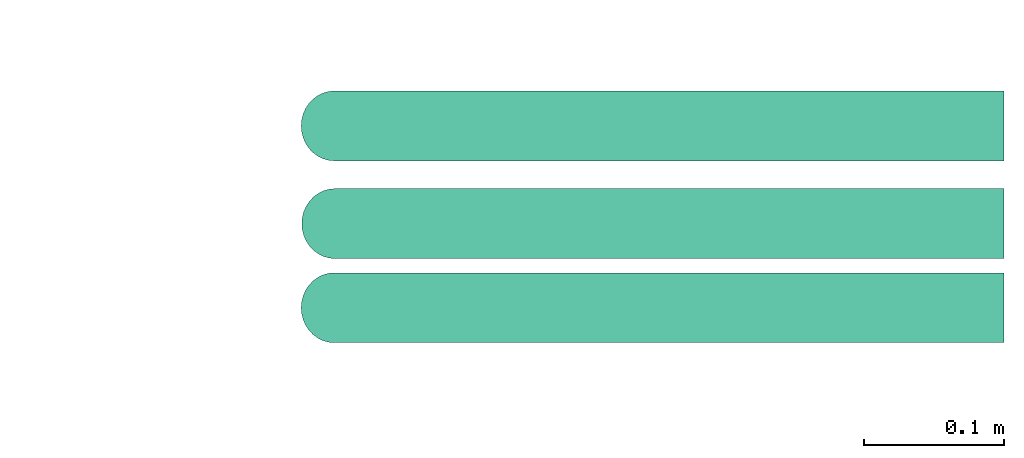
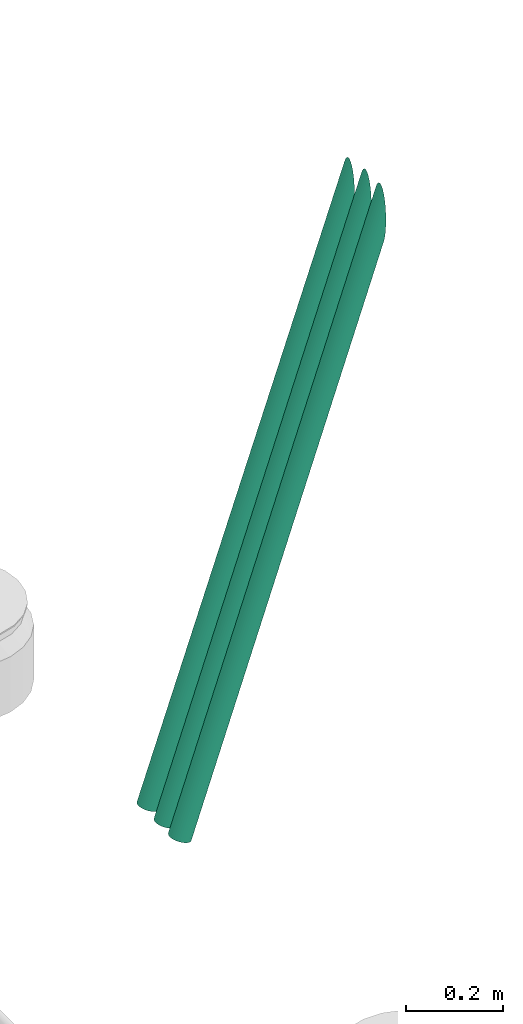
# One storey, part 46 of 51: 3 flow segments.
"""IFC2X3 building model written with IfcOpenShell, lengths in millimetres."""

from ifc_helpers import new_model, entity, si_unit, converted_unit, derived_unit, direction, frame, place, context, subcontext, project, spatial, faceted_brep, type_object, element, save


model = new_model("IFC2X3")

# Units and contexts
model_context = context("Model", 3, precision=0.01, world=frame((0.0, 4.29681676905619e-09, 0.0)), true_north=direction((4.01073788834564e-13, 1.0)))
plan_context = context("Plan", 3, precision=0.01, world=frame((0.0, 4.29681676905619e-09, 0.0)), true_north=direction((4.01073788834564e-13, 1.0)))
body_context = subcontext(model_context, "Body", "Model", "MODEL_VIEW")
ifc_project = project(units=[converted_unit("PLANEANGLEUNIT", "DEGREE", entity("IfcPositiveLengthMeasure", 0.0174532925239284), si_unit("PLANEANGLEUNIT", "RADIAN"), dimensions=[0, 0, 0, 0, 0, 0, 0]), si_unit("AREAUNIT", "SQUARE_METRE"), si_unit("LENGTHUNIT", "METRE", prefix="MILLI"), si_unit("MASSUNIT", "GRAM", prefix="KILO"), si_unit("POWERUNIT", "WATT"), si_unit("PRESSUREUNIT", "PASCAL"), si_unit("FORCEUNIT", "NEWTON", prefix="KILO"), si_unit("ELECTRICVOLTAGEUNIT", "VOLT"), si_unit("ELECTRICCURRENTUNIT", "AMPERE"), si_unit("THERMODYNAMICTEMPERATUREUNIT", "DEGREE_CELSIUS"), si_unit("TIMEUNIT", "SECOND"), si_unit("VOLUMEUNIT", "CUBIC_METRE"), derived_unit("LINEARVELOCITYUNIT", [(si_unit("LENGTHUNIT", "METRE"), 1), (si_unit("TIMEUNIT", "SECOND"), -1)]), derived_unit("VOLUMETRICFLOWRATEUNIT", [(si_unit("VOLUMEUNIT", "CUBIC_METRE"), 1), (si_unit("TIMEUNIT", "SECOND"), -1)]), derived_unit("THERMALTRANSMITTANCEUNIT", [(si_unit("POWERUNIT", "WATT"), 1), (si_unit("THERMODYNAMICTEMPERATUREUNIT", "KELVIN"), -1), (si_unit("AREAUNIT", "SQUARE_METRE"), -1)]), derived_unit("SOUNDPRESSUREUNIT", [(si_unit("PRESSUREUNIT", "PASCAL"), 1)])], contexts=[model_context, plan_context])

# Site, building, storey
site_placement = place(None, frame((0.0, -4.29681676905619e-09, 0.0), z_axis=(0.0, 0.0, 1.0), x_axis=(1.0, 0.0, 0.0)))
site = spatial("IfcSite", under=ifc_project, at=site_placement, Name="ENGM", CompositionType="ELEMENT")
building_placement = place(site_placement, frame((0.0, 4.29681676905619e-09, 0.0), z_axis=(0.0, 0.0, 1.0), x_axis=(1.0, 0.0, 0.0)))
building = spatial("IfcBuilding", under=site, at=building_placement, Name="TI", CompositionType="ELEMENT")
storey_placement = place(building_placement, frame((0.0, 0.0, 210900.0), z_axis=(0.0, 0.0, 1.0), x_axis=(1.0, 0.0, 0.0)))
storey = spatial("IfcBuildingStorey", under=building, at=storey_placement, Name="Nivå F", CompositionType="ELEMENT", Elevation=210900.0)

# Flow segments
cable_carrier_segment_type = type_object("IfcCableCarrierSegmentType", Name="Trekkerør, glatt", PredefinedType="CONDUITSEGMENT")
flow_segment_1_placement = place(storey_placement, frame((611951.29834, 698065.0002, 0.0), z_axis=(-0.945784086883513, 0.0, 0.324796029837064), x_axis=(0.324796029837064, 0.0, 0.945784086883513)))
element("IfcFlowSegment", 1, at=flow_segment_1_placement, inside=storey, type_object=cable_carrier_segment_type, Name="Trekkerør, glatt", context=body_context, shape_type="Brep", body=[
    faceted_brep([(1473.85236910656, 23.0, 0.0), (1462.22237869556, 22.6505783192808, -3.9939080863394), (0.0, 22.6505783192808, -3.9939080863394), (0.0, 23.0, 0.0), (1450.94575965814, 21.6129302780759, -7.8664632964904), (0.0, 21.6129302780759, -7.8664632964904), (1440.36514635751, 19.9185842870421, -11.5), (0.0, 19.9185842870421, -11.5), (1430.80202537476, 17.6190221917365, -14.7841150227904), (0.0, 17.6190221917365, -14.7841150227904), (1422.54696730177, 14.7841150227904, -17.6190221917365), (0.0, 14.7841150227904, -17.6190221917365), (1415.85079790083, 11.5, -19.9185842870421), (0.0, 11.5, -19.9185842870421), (1410.91697689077, 7.86646329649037, -21.6129302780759), (0.0, 7.86646329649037, -21.6129302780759), (1407.89541592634, 3.99390808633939, -22.6505783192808), (0.0, 3.99390808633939, -22.6505783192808), (1406.87792360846, -4.22503145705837e-15, -23.0), (0.0, -4.22503145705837e-15, -23.0), (1407.89541592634, -3.9939080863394, -22.6505783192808), (0.0, -3.9939080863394, -22.6505783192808), (1410.91697689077, -7.8664632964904, -21.6129302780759), (0.0, -7.8664632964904, -21.6129302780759), (1415.85079790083, -11.5, -19.9185842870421), (0.0, -11.5, -19.9185842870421), (1422.54696730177, -14.7841150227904, -17.6190221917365), (0.0, -14.7841150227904, -17.6190221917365), (1430.80202537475, -17.6190221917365, -14.7841150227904), (0.0, -17.6190221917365, -14.7841150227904), (1440.36514635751, -19.9185842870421, -11.5), (0.0, -19.9185842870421, -11.5), (1450.94575965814, -21.6129302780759, -7.86646329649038), (0.0, -21.6129302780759, -7.86646329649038), (1462.22237869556, -22.6505783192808, -3.99390808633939), (0.0, -22.6505783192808, -3.99390808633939), (1473.85236910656, -23.0, 2.81668763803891e-15), (0.0, -23.0, 2.81668763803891e-15), (1485.48235951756, -22.6505783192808, 3.99390808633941), (0.0, -22.6505783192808, 3.99390808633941), (1496.75897855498, -21.6129302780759, 7.86646329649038), (0.0, -21.6129302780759, 7.86646329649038), (1507.33959185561, -19.9185842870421, 11.5), (0.0, -19.9185842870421, 11.5), (1516.90271283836, -17.6190221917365, 14.7841150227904), (0.0, -17.6190221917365, 14.7841150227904), (1525.15777091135, -14.7841150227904, 17.6190221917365), (0.0, -14.7841150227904, 17.6190221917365), (1531.85394031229, -11.5, 19.9185842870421), (0.0, -11.5, 19.9185842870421), (1536.78776132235, -7.86646329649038, 21.6129302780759), (0.0, -7.86646329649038, 21.6129302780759), (1539.80932228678, -3.9939080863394, 22.6505783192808), (0.0, -3.9939080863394, 22.6505783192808), (1540.82681460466, 1.40834381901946e-15, 23.0), (0.0, 1.40834381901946e-15, 23.0), (1539.80932228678, 3.9939080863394, 22.6505783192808), (0.0, 3.9939080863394, 22.6505783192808), (1536.78776132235, 7.86646329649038, 21.6129302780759), (0.0, 7.86646329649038, 21.6129302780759), (1531.85394031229, 11.5, 19.9185842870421), (0.0, 11.5, 19.9185842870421), (1525.15777091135, 14.7841150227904, 17.6190221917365), (0.0, 14.7841150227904, 17.6190221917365), (1516.90271283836, 17.6190221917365, 14.7841150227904), (0.0, 17.6190221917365, 14.7841150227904), (1507.33959185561, 19.9185842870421, 11.5), (0.0, 19.9185842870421, 11.5), (1496.75897855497, 21.6129302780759, 7.86646329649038), (0.0, 21.6129302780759, 7.86646329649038), (1485.48235951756, 22.6505783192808, 3.9939080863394), (0.0, 22.6505783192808, 3.9939080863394), (1461.21107518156, 24.6201938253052, -4.34120444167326), (1473.85236910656, 25.0, 0.0), (0.0, 25.0, 0.0), (0.0, 24.6201938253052, -4.34120444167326), (1486.49366303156, 24.6201938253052, 4.34120444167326), (0.0, 24.6201938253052, 4.34120444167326), (1498.75085763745, 23.4923155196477, 8.55050358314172), (0.0, 23.4923155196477, 8.55050358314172), (1510.25152426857, 21.650635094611, 12.5), (0.0, 21.650635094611, 12.5), (1520.64622098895, 19.1511110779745, 16.0696902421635), (0.0, 19.1511110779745, 16.0696902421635), (1529.61911019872, 16.0696902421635, 19.1511110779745), (0.0, 16.0696902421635, 19.1511110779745), (1536.89755519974, 12.5, 21.650635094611), (0.0, 12.5, 21.650635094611), (1542.26040412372, 8.55050358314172, 23.4923155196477), (0.0, 8.55050358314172, 23.4923155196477), (1545.54470951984, 4.34120444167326, 24.6201938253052), (0.0, 4.34120444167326, 24.6201938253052), (1546.65067943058, 1.53080849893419e-15, 25.0), (0.0, 1.53080849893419e-15, 25.0), (1545.54470951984, -4.34120444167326, 24.6201938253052), (0.0, -4.34120444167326, 24.6201938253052), (1542.26040412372, -8.55050358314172, 23.4923155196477), (0.0, -8.55050358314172, 23.4923155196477), (1536.89755519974, -12.5, 21.650635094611), (0.0, -12.5, 21.650635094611), (1529.61911019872, -16.0696902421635, 19.1511110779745), (0.0, -16.0696902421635, 19.1511110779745), (1520.64622098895, -19.1511110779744, 16.0696902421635), (0.0, -19.1511110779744, 16.0696902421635), (1510.25152426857, -21.650635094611, 12.5), (0.0, -21.650635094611, 12.5), (1498.75085763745, -23.4923155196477, 8.55050358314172), (0.0, -23.4923155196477, 8.55050358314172), (1486.49366303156, -24.6201938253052, 4.34120444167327), (0.0, -24.6201938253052, 4.34120444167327), (1473.85236910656, -25.0, 3.06161699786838e-15), (0.0, -25.0, 3.06161699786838e-15), (1461.21107518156, -24.6201938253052, -4.34120444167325), (0.0, -24.6201938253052, -4.34120444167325), (1448.95388057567, -23.4923155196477, -8.55050358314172), (0.0, -23.4923155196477, -8.55050358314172), (1437.45321394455, -21.650635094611, -12.5), (0.0, -21.650635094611, -12.5), (1427.05851722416, -19.1511110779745, -16.0696902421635), (0.0, -19.1511110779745, -16.0696902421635), (1418.08562801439, -16.0696902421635, -19.1511110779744), (0.0, -16.0696902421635, -19.1511110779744), (1410.80718301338, -12.5, -21.650635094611), (0.0, -12.5, -21.650635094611), (1405.44433408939, -8.55050358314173, -23.4923155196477), (0.0, -8.55050358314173, -23.4923155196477), (1402.16002869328, -4.34120444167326, -24.6201938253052), (0.0, -4.34120444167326, -24.6201938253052), (1401.05405878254, -4.59242549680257e-15, -25.0), (0.0, -4.59242549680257e-15, -25.0), (1402.16002869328, 4.34120444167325, -24.6201938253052), (0.0, 4.34120444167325, -24.6201938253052), (1405.4443340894, 8.5505035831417, -23.4923155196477), (0.0, 8.5505035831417, -23.4923155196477), (1410.80718301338, 12.5, -21.650635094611), (0.0, 12.5, -21.650635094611), (1418.08562801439, 16.0696902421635, -19.1511110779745), (0.0, 16.0696902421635, -19.1511110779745), (1427.05851722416, 19.1511110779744, -16.0696902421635), (0.0, 19.1511110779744, -16.0696902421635), (1437.45321394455, 21.650635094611, -12.5), (0.0, 21.650635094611, -12.5), (1448.95388057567, 23.4923155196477, -8.55050358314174), (0.0, 23.4923155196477, -8.55050358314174)], [[[0, 1, 2, 3]], [[1, 4, 5, 2]], [[4, 6, 7, 5]], [[6, 8, 9, 7]], [[8, 10, 11, 9]], [[10, 12, 13, 11]], [[12, 14, 15, 13]], [[14, 16, 17, 15]], [[16, 18, 19, 17]], [[18, 20, 21, 19]], [[20, 22, 23, 21]], [[22, 24, 25, 23]], [[24, 26, 27, 25]], [[26, 28, 29, 27]], [[28, 30, 31, 29]], [[30, 32, 33, 31]], [[32, 34, 35, 33]], [[34, 36, 37, 35]], [[36, 38, 39, 37]], [[38, 40, 41, 39]], [[40, 42, 43, 41]], [[42, 44, 45, 43]], [[44, 46, 47, 45]], [[46, 48, 49, 47]], [[48, 50, 51, 49]], [[50, 52, 53, 51]], [[52, 54, 55, 53]], [[54, 56, 57, 55]], [[56, 58, 59, 57]], [[58, 60, 61, 59]], [[60, 62, 63, 61]], [[62, 64, 65, 63]], [[64, 66, 67, 65]], [[66, 68, 69, 67]], [[68, 70, 71, 69]], [[70, 0, 3, 71]], [[72, 73, 74, 75]], [[73, 76, 77, 74]], [[76, 78, 79, 77]], [[78, 80, 81, 79]], [[80, 82, 83, 81]], [[82, 84, 85, 83]], [[84, 86, 87, 85]], [[86, 88, 89, 87]], [[88, 90, 91, 89]], [[90, 92, 93, 91]], [[92, 94, 95, 93]], [[94, 96, 97, 95]], [[96, 98, 99, 97]], [[98, 100, 101, 99]], [[100, 102, 103, 101]], [[102, 104, 105, 103]], [[104, 106, 107, 105]], [[106, 108, 109, 107]], [[108, 110, 111, 109]], [[110, 112, 113, 111]], [[112, 114, 115, 113]], [[114, 116, 117, 115]], [[116, 118, 119, 117]], [[118, 120, 121, 119]], [[120, 122, 123, 121]], [[122, 124, 125, 123]], [[124, 126, 127, 125]], [[126, 128, 129, 127]], [[128, 130, 131, 129]], [[130, 132, 133, 131]], [[132, 134, 135, 133]], [[134, 136, 137, 135]], [[136, 138, 139, 137]], [[138, 140, 141, 139]], [[140, 142, 143, 141]], [[142, 72, 75, 143]], [[75, 74, 77, 79, 81, 83, 85, 87, 89, 91, 93, 95, 97, 99, 101, 103, 105, 107, 109, 111, 113, 115, 117, 119, 121, 123, 125, 127, 129, 131, 133, 135, 137, 139, 141, 143], [3, 2, 5, 7, 9, 11, 13, 15, 17, 19, 21, 23, 25, 27, 29, 31, 33, 35, 37, 39, 41, 43, 45, 47, 49, 51, 53, 55, 57, 59, 61, 63, 65, 67, 69, 71]], [[142, 140, 138, 136, 134, 132, 130, 128, 126, 124, 122, 120, 118, 116, 114, 112, 110, 108, 106, 104, 102, 100, 98, 96, 94, 92, 90, 88, 86, 84, 82, 80, 78, 76, 73, 72], [70, 68, 66, 64, 62, 60, 58, 56, 54, 52, 50, 48, 46, 44, 42, 40, 38, 36, 34, 32, 30, 28, 26, 24, 22, 20, 18, 16, 14, 12, 10, 8, 6, 4, 1, 0]]], orient=[[False], [False], [False], [False], [False], [False], [False], [False], [False], [False], [False], [False], [False], [False], [False], [False], [False], [False], [False], [False], [False], [False], [False], [False], [False], [False], [False], [False], [False], [False], [False], [False], [False], [False], [False], [False], [False], [False], [False], [False], [False], [False], [False], [False], [False], [False], [False], [False], [False], [False], [False], [False], [False], [False], [False], [False], [False], [False], [False], [False], [False], [False], [False], [False], [False], [False], [False], [False], [False], [False], [False], [False], [False, False], [False, False]]),
])
flow_segment_2_placement = place(storey_placement, frame((611951.74482, 697995.12539, 0.0), z_axis=(-0.946772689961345, 0.0, 0.321902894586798), x_axis=(0.321902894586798, 0.0, 0.946772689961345)))
element("IfcFlowSegment", 2, at=flow_segment_2_placement, inside=storey, type_object=cable_carrier_segment_type, Name="Trekkerør, glatt", context=body_context, shape_type="Brep", body=[
    faceted_brep([(1485.71176616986, 23.0, 0.0), (1473.96498424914, 22.6505783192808, -3.9939080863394), (0.0, 22.6505783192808, -3.9939080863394), (0.0, 23.0, 0.0), (1462.57512235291, 21.6129302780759, -7.8664632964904), (0.0, 21.6129302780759, -7.8664632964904), (1451.88825567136, 19.9185842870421, -11.5), (0.0, 19.9185842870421, -11.5), (1442.22909924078, 17.6190221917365, -14.7841150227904), (0.0, 17.6190221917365, -14.7841150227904), (1433.89114164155, 14.7841150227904, -17.6190221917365), (0.0, 14.7841150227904, -17.6190221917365), (1427.12772749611, 11.5, -19.9185842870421), (0.0, 11.5, -19.9185842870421), (1422.14435972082, 7.86646329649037, -21.6129302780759), (0.0, 7.86646329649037, -21.6129302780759), (1419.09245542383, 3.99390808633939, -22.6505783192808), (0.0, 3.99390808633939, -22.6505783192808), (1418.06474517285, -4.22503145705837e-15, -23.0), (0.0, -4.22503145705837e-15, -23.0), (1419.09245542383, -3.9939080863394, -22.6505783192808), (0.0, -3.9939080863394, -22.6505783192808), (1422.14435972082, -7.8664632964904, -21.6129302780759), (0.0, -7.8664632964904, -21.6129302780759), (1427.12772749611, -11.5, -19.9185842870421), (0.0, -11.5, -19.9185842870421), (1433.89114164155, -14.7841150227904, -17.6190221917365), (0.0, -14.7841150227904, -17.6190221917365), (1442.22909924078, -17.6190221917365, -14.7841150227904), (0.0, -17.6190221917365, -14.7841150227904), (1451.88825567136, -19.9185842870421, -11.5), (0.0, -19.9185842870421, -11.5), (1462.57512235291, -21.6129302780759, -7.86646329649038), (0.0, -21.6129302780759, -7.86646329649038), (1473.96498424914, -22.6505783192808, -3.99390808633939), (0.0, -22.6505783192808, -3.99390808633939), (1485.71176616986, -23.0, 2.81668763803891e-15), (0.0, -23.0, 2.81668763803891e-15), (1497.45854809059, -22.6505783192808, 3.99390808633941), (0.0, -22.6505783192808, 3.99390808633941), (1508.84840998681, -21.6129302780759, 7.86646329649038), (0.0, -21.6129302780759, 7.86646329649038), (1519.53527666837, -19.9185842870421, 11.5), (0.0, -19.9185842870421, 11.5), (1529.19443309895, -17.6190221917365, 14.7841150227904), (0.0, -17.6190221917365, 14.7841150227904), (1537.53239069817, -14.7841150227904, 17.6190221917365), (0.0, -14.7841150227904, 17.6190221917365), (1544.29580484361, -11.5, 19.9185842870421), (0.0, -11.5, 19.9185842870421), (1549.2791726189, -7.86646329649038, 21.6129302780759), (0.0, -7.86646329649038, 21.6129302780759), (1552.3310769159, -3.9939080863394, 22.6505783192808), (0.0, -3.9939080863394, 22.6505783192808), (1553.35878716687, 1.40834381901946e-15, 23.0), (0.0, 1.40834381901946e-15, 23.0), (1552.3310769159, 3.9939080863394, 22.6505783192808), (0.0, 3.9939080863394, 22.6505783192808), (1549.2791726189, 7.86646329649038, 21.6129302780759), (0.0, 7.86646329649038, 21.6129302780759), (1544.29580484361, 11.5, 19.9185842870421), (0.0, 11.5, 19.9185842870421), (1537.53239069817, 14.7841150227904, 17.6190221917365), (0.0, 14.7841150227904, 17.6190221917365), (1529.19443309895, 17.6190221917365, 14.7841150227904), (0.0, 17.6190221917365, 14.7841150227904), (1519.53527666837, 19.9185842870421, 11.5), (0.0, 19.9185842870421, 11.5), (1508.84840998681, 21.6129302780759, 7.86646329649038), (0.0, 21.6129302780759, 7.86646329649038), (1497.45854809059, 22.6505783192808, 3.9939080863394), (0.0, 22.6505783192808, 3.9939080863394), (1472.94352495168, 24.6201938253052, -4.34120444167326), (1485.71176616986, 25.0, 0.0), (0.0, 25.0, 0.0), (0.0, 24.6201938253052, -4.34120444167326), (1498.48000738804, 24.6201938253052, 4.34120444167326), (0.0, 24.6201938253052, 4.34120444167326), (1510.86029205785, 23.4923155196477, 8.55050358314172), (0.0, 23.4923155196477, 8.55050358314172), (1522.47645149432, 21.650635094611, 12.5), (0.0, 21.650635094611, 12.5), (1532.97553457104, 19.1511110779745, 16.0696902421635), (0.0, 19.1511110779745, 16.0696902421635), (1542.03853196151, 16.0696902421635, 19.1511110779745), (0.0, 16.0696902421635, 19.1511110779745), (1549.39006907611, 12.5, 21.650635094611), (0.0, 12.5, 21.650635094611), (1554.80677317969, 8.55050358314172, 23.4923155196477), (0.0, 8.55050358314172, 23.4923155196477), (1558.12406045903, 4.34120444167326, 24.6201938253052), (0.0, 4.34120444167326, 24.6201938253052), (1559.24113681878, 1.53080849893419e-15, 25.0), (0.0, 1.53080849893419e-15, 25.0), (1558.12406045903, -4.34120444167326, 24.6201938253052), (0.0, -4.34120444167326, 24.6201938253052), (1554.80677317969, -8.55050358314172, 23.4923155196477), (0.0, -8.55050358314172, 23.4923155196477), (1549.39006907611, -12.5, 21.650635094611), (0.0, -12.5, 21.650635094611), (1542.03853196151, -16.0696902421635, 19.1511110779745), (0.0, -16.0696902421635, 19.1511110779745), (1532.97553457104, -19.1511110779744, 16.0696902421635), (0.0, -19.1511110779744, 16.0696902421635), (1522.47645149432, -21.650635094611, 12.5), (0.0, -21.650635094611, 12.5), (1510.86029205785, -23.4923155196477, 8.55050358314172), (0.0, -23.4923155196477, 8.55050358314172), (1498.48000738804, -24.6201938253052, 4.34120444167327), (0.0, -24.6201938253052, 4.34120444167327), (1485.71176616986, -25.0, 3.06161699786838e-15), (0.0, -25.0, 3.06161699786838e-15), (1472.94352495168, -24.6201938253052, -4.34120444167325), (0.0, -24.6201938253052, -4.34120444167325), (1460.56324028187, -23.4923155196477, -8.55050358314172), (0.0, -23.4923155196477, -8.55050358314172), (1448.9470808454, -21.650635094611, -12.5), (0.0, -21.650635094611, -12.5), (1438.44799776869, -19.1511110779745, -16.0696902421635), (0.0, -19.1511110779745, -16.0696902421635), (1429.38500037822, -16.0696902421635, -19.1511110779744), (0.0, -16.0696902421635, -19.1511110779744), (1422.03346326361, -12.5, -21.650635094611), (0.0, -12.5, -21.650635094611), (1416.61675916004, -8.55050358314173, -23.4923155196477), (0.0, -8.55050358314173, -23.4923155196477), (1413.2994718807, -4.34120444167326, -24.6201938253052), (0.0, -4.34120444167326, -24.6201938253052), (1412.18239552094, -4.59242549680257e-15, -25.0), (0.0, -4.59242549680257e-15, -25.0), (1413.2994718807, 4.34120444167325, -24.6201938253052), (0.0, 4.34120444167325, -24.6201938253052), (1416.61675916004, 8.5505035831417, -23.4923155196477), (0.0, 8.5505035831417, -23.4923155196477), (1422.03346326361, 12.5, -21.650635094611), (0.0, 12.5, -21.650635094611), (1429.38500037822, 16.0696902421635, -19.1511110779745), (0.0, 16.0696902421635, -19.1511110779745), (1438.44799776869, 19.1511110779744, -16.0696902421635), (0.0, 19.1511110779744, -16.0696902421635), (1448.9470808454, 21.650635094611, -12.5), (0.0, 21.650635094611, -12.5), (1460.56324028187, 23.4923155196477, -8.55050358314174), (0.0, 23.4923155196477, -8.55050358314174)], [[[0, 1, 2, 3]], [[1, 4, 5, 2]], [[4, 6, 7, 5]], [[6, 8, 9, 7]], [[8, 10, 11, 9]], [[10, 12, 13, 11]], [[12, 14, 15, 13]], [[14, 16, 17, 15]], [[16, 18, 19, 17]], [[18, 20, 21, 19]], [[20, 22, 23, 21]], [[22, 24, 25, 23]], [[24, 26, 27, 25]], [[26, 28, 29, 27]], [[28, 30, 31, 29]], [[30, 32, 33, 31]], [[32, 34, 35, 33]], [[34, 36, 37, 35]], [[36, 38, 39, 37]], [[38, 40, 41, 39]], [[40, 42, 43, 41]], [[42, 44, 45, 43]], [[44, 46, 47, 45]], [[46, 48, 49, 47]], [[48, 50, 51, 49]], [[50, 52, 53, 51]], [[52, 54, 55, 53]], [[54, 56, 57, 55]], [[56, 58, 59, 57]], [[58, 60, 61, 59]], [[60, 62, 63, 61]], [[62, 64, 65, 63]], [[64, 66, 67, 65]], [[66, 68, 69, 67]], [[68, 70, 71, 69]], [[70, 0, 3, 71]], [[72, 73, 74, 75]], [[73, 76, 77, 74]], [[76, 78, 79, 77]], [[78, 80, 81, 79]], [[80, 82, 83, 81]], [[82, 84, 85, 83]], [[84, 86, 87, 85]], [[86, 88, 89, 87]], [[88, 90, 91, 89]], [[90, 92, 93, 91]], [[92, 94, 95, 93]], [[94, 96, 97, 95]], [[96, 98, 99, 97]], [[98, 100, 101, 99]], [[100, 102, 103, 101]], [[102, 104, 105, 103]], [[104, 106, 107, 105]], [[106, 108, 109, 107]], [[108, 110, 111, 109]], [[110, 112, 113, 111]], [[112, 114, 115, 113]], [[114, 116, 117, 115]], [[116, 118, 119, 117]], [[118, 120, 121, 119]], [[120, 122, 123, 121]], [[122, 124, 125, 123]], [[124, 126, 127, 125]], [[126, 128, 129, 127]], [[128, 130, 131, 129]], [[130, 132, 133, 131]], [[132, 134, 135, 133]], [[134, 136, 137, 135]], [[136, 138, 139, 137]], [[138, 140, 141, 139]], [[140, 142, 143, 141]], [[142, 72, 75, 143]], [[75, 74, 77, 79, 81, 83, 85, 87, 89, 91, 93, 95, 97, 99, 101, 103, 105, 107, 109, 111, 113, 115, 117, 119, 121, 123, 125, 127, 129, 131, 133, 135, 137, 139, 141, 143], [3, 2, 5, 7, 9, 11, 13, 15, 17, 19, 21, 23, 25, 27, 29, 31, 33, 35, 37, 39, 41, 43, 45, 47, 49, 51, 53, 55, 57, 59, 61, 63, 65, 67, 69, 71]], [[142, 140, 138, 136, 134, 132, 130, 128, 126, 124, 122, 120, 118, 116, 114, 112, 110, 108, 106, 104, 102, 100, 98, 96, 94, 92, 90, 88, 86, 84, 82, 80, 78, 76, 73, 72], [70, 68, 66, 64, 62, 60, 58, 56, 54, 52, 50, 48, 46, 44, 42, 40, 38, 36, 34, 32, 30, 28, 26, 24, 22, 20, 18, 16, 14, 12, 10, 8, 6, 4, 1, 0]]], orient=[[False], [False], [False], [False], [False], [False], [False], [False], [False], [False], [False], [False], [False], [False], [False], [False], [False], [False], [False], [False], [False], [False], [False], [False], [False], [False], [False], [False], [False], [False], [False], [False], [False], [False], [False], [False], [False], [False], [False], [False], [False], [False], [False], [False], [False], [False], [False], [False], [False], [False], [False], [False], [False], [False], [False], [False], [False], [False], [False], [False], [False], [False], [False], [False], [False], [False], [False], [False], [False], [False], [False], [False], [False, False], [False, False]]),
])
flow_segment_3_placement = place(storey_placement, frame((611951.29834, 697934.99883, 0.0), z_axis=(-0.946746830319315, 0.0, 0.321978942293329), x_axis=(0.321978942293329, 0.0, 0.946746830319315)))
element("IfcFlowSegment", 3, at=flow_segment_3_placement, inside=storey, type_object=cable_carrier_segment_type, Name="Trekkerør, glatt", context=body_context, shape_type="Brep", body=[
    faceted_brep([(1486.74753274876, 23.0, 0.0), (1475.00384605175, 22.6505783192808, -3.9939080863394), (0.0, 22.6505783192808, -3.9939080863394), (0.0, 23.0, 0.0), (1463.61698533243, 21.6129302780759, -7.8664632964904), (0.0, 21.6129302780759, -7.8664632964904), (1452.93293459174, 19.9185842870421, -11.5), (0.0, 19.9185842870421, -11.5), (1443.27632330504, 17.6190221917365, -14.7841150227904), (0.0, 17.6190221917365, -14.7841150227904), (1434.94056271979, 14.7841150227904, -17.6190221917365), (0.0, 14.7841150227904, -17.6190221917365), (1428.17893070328, 11.5, -19.9185842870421), (0.0, 11.5, -19.9185842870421), (1423.19687602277, 7.86646329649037, -21.6129302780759), (0.0, 7.86646329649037, -21.6129302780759), (1420.14577588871, 3.99390808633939, -22.6505783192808), (0.0, 3.99390808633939, -22.6505783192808), (1419.11833643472, -4.22503145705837e-15, -23.0), (0.0, -4.22503145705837e-15, -23.0), (1420.14577588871, -3.9939080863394, -22.6505783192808), (0.0, -3.9939080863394, -22.6505783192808), (1423.19687602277, -7.86646329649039, -21.6129302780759), (0.0, -7.8664632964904, -21.6129302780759), (1428.17893070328, -11.5, -19.9185842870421), (0.0, -11.5, -19.9185842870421), (1434.94056271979, -14.7841150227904, -17.6190221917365), (0.0, -14.7841150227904, -17.6190221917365), (1443.27632330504, -17.6190221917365, -14.7841150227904), (0.0, -17.6190221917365, -14.7841150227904), (1452.93293459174, -19.9185842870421, -11.5), (0.0, -19.9185842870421, -11.5), (1463.61698533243, -21.6129302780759, -7.86646329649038), (0.0, -21.6129302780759, -7.86646329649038), (1475.00384605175, -22.6505783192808, -3.99390808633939), (0.0, -22.6505783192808, -3.99390808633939), (1486.74753274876, -23.0, 2.81668763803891e-15), (0.0, -23.0, 2.81668763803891e-15), (1498.49121944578, -22.6505783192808, 3.99390808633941), (0.0, -22.6505783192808, 3.99390808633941), (1509.87808016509, -21.6129302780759, 7.86646329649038), (0.0, -21.6129302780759, 7.86646329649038), (1520.56213090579, -19.9185842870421, 11.5), (0.0, -19.9185842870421, 11.5), (1530.21874219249, -17.6190221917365, 14.7841150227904), (0.0, -17.6190221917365, 14.7841150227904), (1538.55450277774, -14.7841150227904, 17.6190221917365), (0.0, -14.7841150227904, 17.6190221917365), (1545.31613479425, -11.5, 19.9185842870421), (0.0, -11.5, 19.9185842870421), (1550.29818947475, -7.86646329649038, 21.6129302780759), (0.0, -7.86646329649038, 21.6129302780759), (1553.34928960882, -3.9939080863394, 22.6505783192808), (0.0, -3.9939080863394, 22.6505783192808), (1554.37672906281, 1.40834381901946e-15, 23.0), (0.0, 1.40834381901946e-15, 23.0), (1553.34928960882, 3.9939080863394, 22.6505783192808), (0.0, 3.9939080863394, 22.6505783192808), (1550.29818947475, 7.86646329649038, 21.6129302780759), (0.0, 7.86646329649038, 21.6129302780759), (1545.31613479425, 11.5, 19.9185842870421), (0.0, 11.5, 19.9185842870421), (1538.55450277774, 14.7841150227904, 17.6190221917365), (0.0, 14.7841150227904, 17.6190221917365), (1530.21874219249, 17.6190221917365, 14.7841150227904), (0.0, 17.6190221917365, 14.7841150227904), (1520.56213090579, 19.9185842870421, 11.5), (0.0, 19.9185842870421, 11.5), (1509.87808016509, 21.6129302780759, 7.86646329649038), (0.0, 21.6129302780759, 7.86646329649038), (1498.49121944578, 22.6505783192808, 3.9939080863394), (0.0, 22.6505783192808, 3.9939080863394), (1473.98265590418, 24.6201938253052, -4.34120444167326), (1486.74753274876, 25.0, 0.0), (0.0, 25.0, 0.0), (0.0, 24.6201938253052, -4.34120444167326), (1499.51240959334, 24.6201938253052, 4.34120444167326), (0.0, 24.6201938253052, 4.34120444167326), (1511.88943211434, 23.4923155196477, 8.55050358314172), (0.0, 23.4923155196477, 8.55050358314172), (1523.50253074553, 21.650635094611, 12.5), (0.0, 21.650635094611, 12.5), (1533.99884736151, 19.1511110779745, 16.0696902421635), (0.0, 19.1511110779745, 16.0696902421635), (1543.0594566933, 16.0696902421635, 19.1511110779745), (0.0, 16.0696902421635, 19.1511110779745), (1550.40905671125, 12.5, 21.650635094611), (0.0, 12.5, 21.650635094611), (1555.82433353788, 8.55050358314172, 23.4923155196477), (0.0, 8.55050358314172, 23.4923155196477), (1559.14074672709, 4.34120444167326, 24.6201938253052), (0.0, 4.34120444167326, 24.6201938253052), (1560.25752874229, 1.53080849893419e-15, 25.0), (0.0, 1.53080849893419e-15, 25.0), (1559.14074672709, -4.34120444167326, 24.6201938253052), (0.0, -4.34120444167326, 24.6201938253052), (1555.82433353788, -8.55050358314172, 23.4923155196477), (0.0, -8.55050358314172, 23.4923155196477), (1550.40905671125, -12.5, 21.650635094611), (0.0, -12.5, 21.650635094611), (1543.0594566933, -16.0696902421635, 19.1511110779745), (0.0, -16.0696902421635, 19.1511110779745), (1533.99884736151, -19.1511110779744, 16.0696902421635), (0.0, -19.1511110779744, 16.0696902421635), (1523.50253074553, -21.650635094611, 12.5), (0.0, -21.650635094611, 12.5), (1511.88943211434, -23.4923155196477, 8.55050358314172), (0.0, -23.4923155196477, 8.55050358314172), (1499.51240959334, -24.6201938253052, 4.34120444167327), (0.0, -24.6201938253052, 4.34120444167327), (1486.74753274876, -25.0, 3.06161699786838e-15), (0.0, -25.0, 3.06161699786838e-15), (1473.98265590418, -24.6201938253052, -4.34120444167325), (0.0, -24.6201938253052, -4.34120444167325), (1461.60563338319, -23.4923155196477, -8.55050358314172), (0.0, -23.4923155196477, -8.55050358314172), (1449.992534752, -21.650635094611, -12.5), (0.0, -21.650635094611, -12.5), (1439.49621813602, -19.1511110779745, -16.0696902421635), (0.0, -19.1511110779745, -16.0696902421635), (1430.43560880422, -16.0696902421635, -19.1511110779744), (0.0, -16.0696902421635, -19.1511110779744), (1423.08600878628, -12.5, -21.650635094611), (0.0, -12.5, -21.650635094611), (1417.67073195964, -8.55050358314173, -23.4923155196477), (0.0, -8.55050358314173, -23.4923155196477), (1414.35431877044, -4.34120444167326, -24.6201938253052), (0.0, -4.34120444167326, -24.6201938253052), (1413.23753675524, -4.59242549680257e-15, -25.0), (0.0, -4.59242549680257e-15, -25.0), (1414.35431877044, 4.34120444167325, -24.6201938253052), (0.0, 4.34120444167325, -24.6201938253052), (1417.67073195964, 8.5505035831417, -23.4923155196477), (0.0, 8.5505035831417, -23.4923155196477), (1423.08600878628, 12.5, -21.650635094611), (0.0, 12.5, -21.650635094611), (1430.43560880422, 16.0696902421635, -19.1511110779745), (0.0, 16.0696902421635, -19.1511110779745), (1439.49621813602, 19.1511110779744, -16.0696902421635), (0.0, 19.1511110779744, -16.0696902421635), (1449.992534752, 21.650635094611, -12.5), (0.0, 21.650635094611, -12.5), (1461.60563338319, 23.4923155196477, -8.55050358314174), (0.0, 23.4923155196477, -8.55050358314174)], [[[0, 1, 2, 3]], [[1, 4, 5, 2]], [[4, 6, 7, 5]], [[6, 8, 9, 7]], [[8, 10, 11, 9]], [[10, 12, 13, 11]], [[12, 14, 15, 13]], [[14, 16, 17, 15]], [[16, 18, 19, 17]], [[18, 20, 21, 19]], [[20, 22, 23, 21]], [[22, 24, 25, 23]], [[24, 26, 27, 25]], [[26, 28, 29, 27]], [[28, 30, 31, 29]], [[30, 32, 33, 31]], [[32, 34, 35, 33]], [[34, 36, 37, 35]], [[36, 38, 39, 37]], [[38, 40, 41, 39]], [[40, 42, 43, 41]], [[42, 44, 45, 43]], [[44, 46, 47, 45]], [[46, 48, 49, 47]], [[48, 50, 51, 49]], [[50, 52, 53, 51]], [[52, 54, 55, 53]], [[54, 56, 57, 55]], [[56, 58, 59, 57]], [[58, 60, 61, 59]], [[60, 62, 63, 61]], [[62, 64, 65, 63]], [[64, 66, 67, 65]], [[66, 68, 69, 67]], [[68, 70, 71, 69]], [[70, 0, 3, 71]], [[72, 73, 74, 75]], [[73, 76, 77, 74]], [[76, 78, 79, 77]], [[78, 80, 81, 79]], [[80, 82, 83, 81]], [[82, 84, 85, 83]], [[84, 86, 87, 85]], [[86, 88, 89, 87]], [[88, 90, 91, 89]], [[90, 92, 93, 91]], [[92, 94, 95, 93]], [[94, 96, 97, 95]], [[96, 98, 99, 97]], [[98, 100, 101, 99]], [[100, 102, 103, 101]], [[102, 104, 105, 103]], [[104, 106, 107, 105]], [[106, 108, 109, 107]], [[108, 110, 111, 109]], [[110, 112, 113, 111]], [[112, 114, 115, 113]], [[114, 116, 117, 115]], [[116, 118, 119, 117]], [[118, 120, 121, 119]], [[120, 122, 123, 121]], [[122, 124, 125, 123]], [[124, 126, 127, 125]], [[126, 128, 129, 127]], [[128, 130, 131, 129]], [[130, 132, 133, 131]], [[132, 134, 135, 133]], [[134, 136, 137, 135]], [[136, 138, 139, 137]], [[138, 140, 141, 139]], [[140, 142, 143, 141]], [[142, 72, 75, 143]], [[75, 74, 77, 79, 81, 83, 85, 87, 89, 91, 93, 95, 97, 99, 101, 103, 105, 107, 109, 111, 113, 115, 117, 119, 121, 123, 125, 127, 129, 131, 133, 135, 137, 139, 141, 143], [3, 2, 5, 7, 9, 11, 13, 15, 17, 19, 21, 23, 25, 27, 29, 31, 33, 35, 37, 39, 41, 43, 45, 47, 49, 51, 53, 55, 57, 59, 61, 63, 65, 67, 69, 71]], [[142, 140, 138, 136, 134, 132, 130, 128, 126, 124, 122, 120, 118, 116, 114, 112, 110, 108, 106, 104, 102, 100, 98, 96, 94, 92, 90, 88, 86, 84, 82, 80, 78, 76, 73, 72], [70, 68, 66, 64, 62, 60, 58, 56, 54, 52, 50, 48, 46, 44, 42, 40, 38, 36, 34, 32, 30, 28, 26, 24, 22, 20, 18, 16, 14, 12, 10, 8, 6, 4, 1, 0]]], orient=[[False], [False], [False], [False], [False], [False], [False], [False], [False], [False], [False], [False], [False], [False], [False], [False], [False], [False], [False], [False], [False], [False], [False], [False], [False], [False], [False], [False], [False], [False], [False], [False], [False], [False], [False], [False], [False], [False], [False], [False], [False], [False], [False], [False], [False], [False], [False], [False], [False], [False], [False], [False], [False], [False], [False], [False], [False], [False], [False], [False], [False], [False], [False], [False], [False], [False], [False], [False], [False], [False], [False], [False], [False, False], [False, False]]),
])

save(model, "model.ifc")
